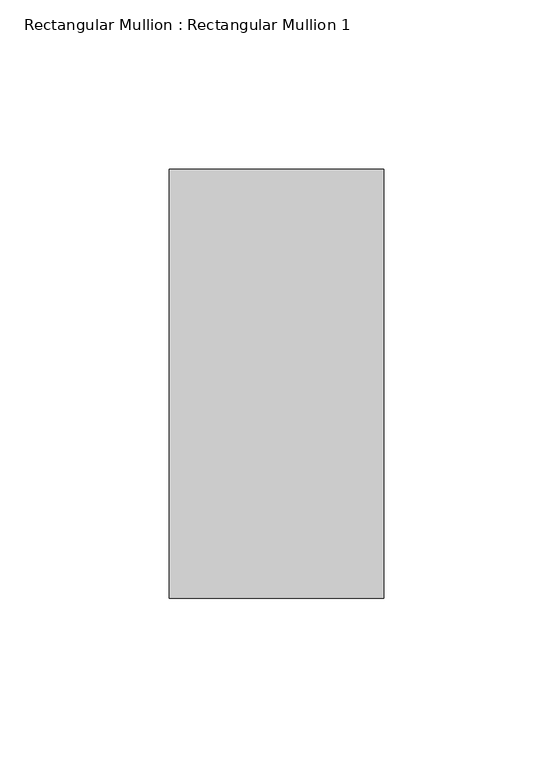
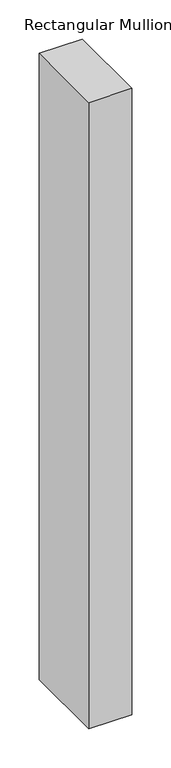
"""IFC4 building model written with IfcOpenShell, lengths in millimetres: member geometry, Rectangular Mullion : Rectangular Mullion 1."""

from ifc_helpers import new_model, si_unit, frame, origin, place, context, project, spatial, polyline, outline, extrude, source, transform, mapped, element, save


def rectangular_mullion_rectangular_mullion_1_ea0c93bf(model_context):
    return source(origin(), model_context, "Body", "SweptSolid", [
        extrude(outline(polyline([(31.75, 63.5), (31.75, -63.5), (-31.75, -63.5), (-31.75, 63.5), (31.75, 63.5)])), frame((0.0, 0.0, -976.8416667), z_axis=(0.0, 0.0, 1.0), x_axis=(1.0, 0.0, 0.0)), (0.0, 0.0, 1.0), 976.8416667),
    ])


if __name__ == "__main__":
    model = new_model("IFC4")
    model_context = context("Model", 3, world=origin())
    ifc_project = project(units=[si_unit("LENGTHUNIT", "METRE", prefix="MILLI")], contexts=[model_context])
    site = spatial("IfcSite", under=ifc_project)
    building = spatial("IfcBuilding", under=site)
    placement = place(None, origin())
    rectangular_mullion_rectangular_mullion_1_shape = rectangular_mullion_rectangular_mullion_1_ea0c93bf(model_context)
    element("IfcMember", 1, ObjectType="Rectangular Mullion : Rectangular Mullion 1", at=placement, inside=building, context=model_context, shape_type="MappedRepresentation", body=[
        mapped(rectangular_mullion_rectangular_mullion_1_shape, transform((0.0, 0.0, 0.0), x_axis=(1.0, 0.0, 0.0), y_axis=(0.0, 1.0, 0.0), z_axis=(0.0, 0.0, 1.0))),
    ])
    save(model, "model.ifc")
